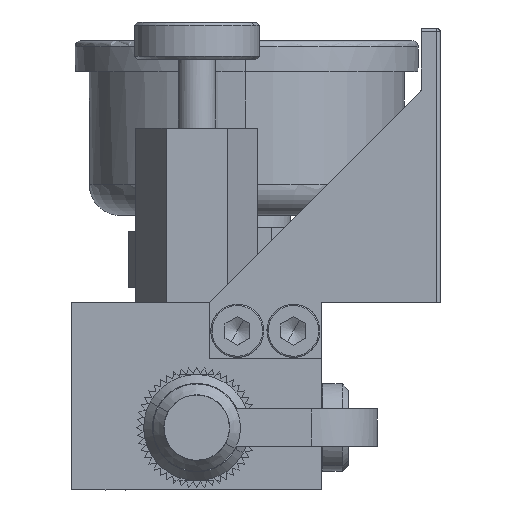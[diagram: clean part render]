
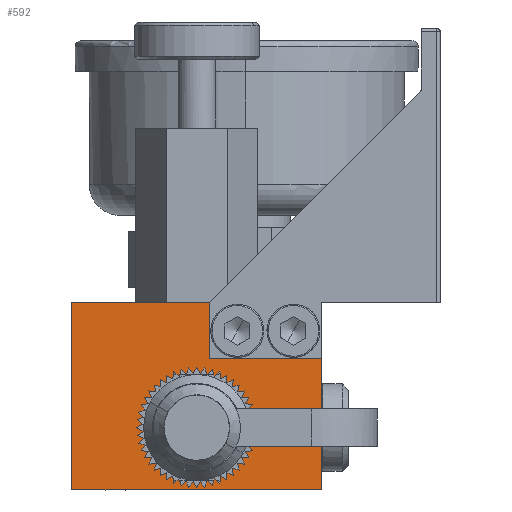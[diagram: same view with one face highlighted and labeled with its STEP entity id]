
A CAD part, front view. The second image highlights one B-rep face of the part: STEP entity #592.
In plain terms, the highlighted planar face has unit normal (0, -1, 0).
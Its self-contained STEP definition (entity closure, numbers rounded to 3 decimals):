
#70=CARTESIAN_POINT('Vertex',(-59.,-57.,-30.)) ;
#73=CARTESIAN_POINT('Line Origine',(-59.,-57.,-15.)) ;
#77=CARTESIAN_POINT('Vertex',(-59.,-57.,0.)) ;
#370=CARTESIAN_POINT('Vertex',(-19.,-57.,-30.)) ;
#373=CARTESIAN_POINT('Line Origine',(-39.,-57.,-30.)) ;
#493=CARTESIAN_POINT('Axis2P3D Location',(-19.,-57.,-30.)) ;
#498=CARTESIAN_POINT('Line Origine',(-48.,-57.,0.)) ;
#502=CARTESIAN_POINT('Vertex',(-37.,-57.,0.)) ;
#505=CARTESIAN_POINT('Line Origine',(-19.,-57.,-19.5)) ;
#509=CARTESIAN_POINT('Vertex',(-19.,-57.,-9.)) ;
#512=CARTESIAN_POINT('Line Origine',(-28.,-57.,-9.)) ;
#516=CARTESIAN_POINT('Vertex',(-37.,-57.,-9.)) ;
#519=CARTESIAN_POINT('Line Origine',(-37.,-57.,-4.5)) ;
#533=CARTESIAN_POINT('Control Point',(-39.,-57.,-13.1)) ;
#534=CARTESIAN_POINT('Control Point',(-39.643,-57.,-13.1)) ;
#535=CARTESIAN_POINT('Control Point',(-40.287,-57.,-13.175)) ;
#536=CARTESIAN_POINT('Control Point',(-40.919,-57.,-13.325)) ;
#537=CARTESIAN_POINT('Control Point',(-42.136,-57.,-13.77)) ;
#538=CARTESIAN_POINT('Control Point',(-43.218,-57.,-14.482)) ;
#539=CARTESIAN_POINT('Control Point',(-43.715,-57.,-14.9)) ;
#540=CARTESIAN_POINT('Control Point',(-44.602,-57.,-15.844)) ;
#541=CARTESIAN_POINT('Control Point',(-45.248,-57.,-16.967)) ;
#542=CARTESIAN_POINT('Control Point',(-45.504,-57.,-17.564)) ;
#543=CARTESIAN_POINT('Control Point',(-45.872,-57.,-18.806)) ;
#544=CARTESIAN_POINT('Control Point',(-45.945,-57.,-20.099)) ;
#545=CARTESIAN_POINT('Control Point',(-45.905,-57.,-20.748)) ;
#546=CARTESIAN_POINT('Control Point',(-45.675,-57.,-22.023)) ;
#547=CARTESIAN_POINT('Control Point',(-45.159,-57.,-23.211)) ;
#548=CARTESIAN_POINT('Control Point',(-44.832,-57.,-23.772)) ;
#549=CARTESIAN_POINT('Control Point',(-44.054,-57.,-24.808)) ;
#550=CARTESIAN_POINT('Control Point',(-43.058,-57.,-25.636)) ;
#551=CARTESIAN_POINT('Control Point',(-42.514,-57.,-25.991)) ;
#552=CARTESIAN_POINT('Control Point',(-41.505,-57.,-26.491)) ;
#553=CARTESIAN_POINT('Control Point',(-40.42,-57.,-26.777)) ;
#554=CARTESIAN_POINT('Control Point',(-39.95,-57.,-26.859)) ;
#555=CARTESIAN_POINT('Control Point',(-39.475,-57.,-26.9)) ;
#556=CARTESIAN_POINT('Control Point',(-39.,-57.,-26.9)) ;
#557=CARTESIAN_POINT('Vertex',(-39.,-57.,-13.1)) ;
#559=CARTESIAN_POINT('Vertex',(-39.,-57.,-26.9)) ;
#563=CARTESIAN_POINT('Control Point',(-39.,-57.,-26.9)) ;
#564=CARTESIAN_POINT('Control Point',(-38.357,-57.,-26.9)) ;
#565=CARTESIAN_POINT('Control Point',(-37.713,-57.,-26.825)) ;
#566=CARTESIAN_POINT('Control Point',(-37.081,-57.,-26.675)) ;
#567=CARTESIAN_POINT('Control Point',(-35.864,-57.,-26.23)) ;
#568=CARTESIAN_POINT('Control Point',(-34.782,-57.,-25.518)) ;
#569=CARTESIAN_POINT('Control Point',(-34.285,-57.,-25.1)) ;
#570=CARTESIAN_POINT('Control Point',(-33.398,-57.,-24.156)) ;
#571=CARTESIAN_POINT('Control Point',(-32.752,-57.,-23.033)) ;
#572=CARTESIAN_POINT('Control Point',(-32.496,-57.,-22.436)) ;
#573=CARTESIAN_POINT('Control Point',(-32.128,-57.,-21.194)) ;
#574=CARTESIAN_POINT('Control Point',(-32.055,-57.,-19.901)) ;
#575=CARTESIAN_POINT('Control Point',(-32.095,-57.,-19.252)) ;
#576=CARTESIAN_POINT('Control Point',(-32.325,-57.,-17.977)) ;
#577=CARTESIAN_POINT('Control Point',(-32.841,-57.,-16.789)) ;
#578=CARTESIAN_POINT('Control Point',(-33.168,-57.,-16.228)) ;
#579=CARTESIAN_POINT('Control Point',(-33.946,-57.,-15.192)) ;
#580=CARTESIAN_POINT('Control Point',(-34.942,-57.,-14.364)) ;
#581=CARTESIAN_POINT('Control Point',(-35.486,-57.,-14.009)) ;
#582=CARTESIAN_POINT('Control Point',(-36.495,-57.,-13.509)) ;
#583=CARTESIAN_POINT('Control Point',(-37.58,-57.,-13.223)) ;
#584=CARTESIAN_POINT('Control Point',(-38.05,-57.,-13.141)) ;
#585=CARTESIAN_POINT('Control Point',(-38.525,-57.,-13.1)) ;
#586=CARTESIAN_POINT('Control Point',(-39.,-57.,-13.1)) ;
#74=DIRECTION('Vector Direction',(0.,0.,1.)) ;
#374=DIRECTION('Vector Direction',(-1.,0.,0.)) ;
#494=DIRECTION('Axis2P3D Direction',(0.,-1.,0.)) ;
#495=DIRECTION('Axis2P3D XDirection',(0.,0.,1.)) ;
#499=DIRECTION('Vector Direction',(-1.,0.,0.)) ;
#506=DIRECTION('Vector Direction',(0.,0.,1.)) ;
#513=DIRECTION('Vector Direction',(-1.,0.,0.)) ;
#520=DIRECTION('Vector Direction',(0.,0.,1.)) ;
#496=AXIS2_PLACEMENT_3D('Plane Axis2P3D',#493,#494,#495) ;
#525=ORIENTED_EDGE('',*,*,#504,.T.) ;
#526=ORIENTED_EDGE('',*,*,#79,.T.) ;
#527=ORIENTED_EDGE('',*,*,#377,.F.) ;
#528=ORIENTED_EDGE('',*,*,#511,.F.) ;
#529=ORIENTED_EDGE('',*,*,#518,.T.) ;
#530=ORIENTED_EDGE('',*,*,#523,.T.) ;
#589=ORIENTED_EDGE('',*,*,#561,.F.) ;
#590=ORIENTED_EDGE('',*,*,#587,.F.) ;
#591=FACE_BOUND('',#588,.T.) ;
#75=VECTOR('Line Direction',#74,1.) ;
#375=VECTOR('Line Direction',#374,1.) ;
#500=VECTOR('Line Direction',#499,1.) ;
#507=VECTOR('Line Direction',#506,1.) ;
#514=VECTOR('Line Direction',#513,1.) ;
#521=VECTOR('Line Direction',#520,1.) ;
#592=ADVANCED_FACE('',(#531,#591),#497,.T.) ;
#532=B_SPLINE_CURVE_WITH_KNOTS('',5,(#533,#534,#535,#536,#537,#538,#539,#540,#541,#542,#543,#544,#545,#546,#547,#548,#549,#550,#551,#552,#553,#554,#555,#556),.UNSPECIFIED.,.F.,.U.,(6,3,3,3,3,3,3,6),(0.,4.559,9.119,13.678,18.238,22.797,27.357,30.721),.UNSPECIFIED.) ;
#562=B_SPLINE_CURVE_WITH_KNOTS('',5,(#563,#564,#565,#566,#567,#568,#569,#570,#571,#572,#573,#574,#575,#576,#577,#578,#579,#580,#581,#582,#583,#584,#585,#586),.UNSPECIFIED.,.F.,.U.,(6,3,3,3,3,3,3,6),(0.,4.559,9.119,13.678,18.238,22.797,27.357,30.721),.UNSPECIFIED.) ;
#79=EDGE_CURVE('',#78,#71,#76,.F.) ;
#377=EDGE_CURVE('',#371,#71,#376,.T.) ;
#504=EDGE_CURVE('',#503,#78,#501,.T.) ;
#511=EDGE_CURVE('',#510,#371,#508,.F.) ;
#518=EDGE_CURVE('',#510,#517,#515,.T.) ;
#523=EDGE_CURVE('',#517,#503,#522,.T.) ;
#561=EDGE_CURVE('',#558,#560,#532,.T.) ;
#587=EDGE_CURVE('',#560,#558,#562,.T.) ;
#524=EDGE_LOOP('',(#525,#526,#527,#528,#529,#530)) ;
#588=EDGE_LOOP('',(#589,#590)) ;
#531=FACE_OUTER_BOUND('',#524,.T.) ;
#76=LINE('Line',#73,#75) ;
#376=LINE('Line',#373,#375) ;
#501=LINE('Line',#498,#500) ;
#508=LINE('Line',#505,#507) ;
#515=LINE('Line',#512,#514) ;
#522=LINE('Line',#519,#521) ;
#497=PLANE('Plane',#496) ;
#71=VERTEX_POINT('',#70) ;
#78=VERTEX_POINT('',#77) ;
#371=VERTEX_POINT('',#370) ;
#503=VERTEX_POINT('',#502) ;
#510=VERTEX_POINT('',#509) ;
#517=VERTEX_POINT('',#516) ;
#558=VERTEX_POINT('',#557) ;
#560=VERTEX_POINT('',#559) ;
